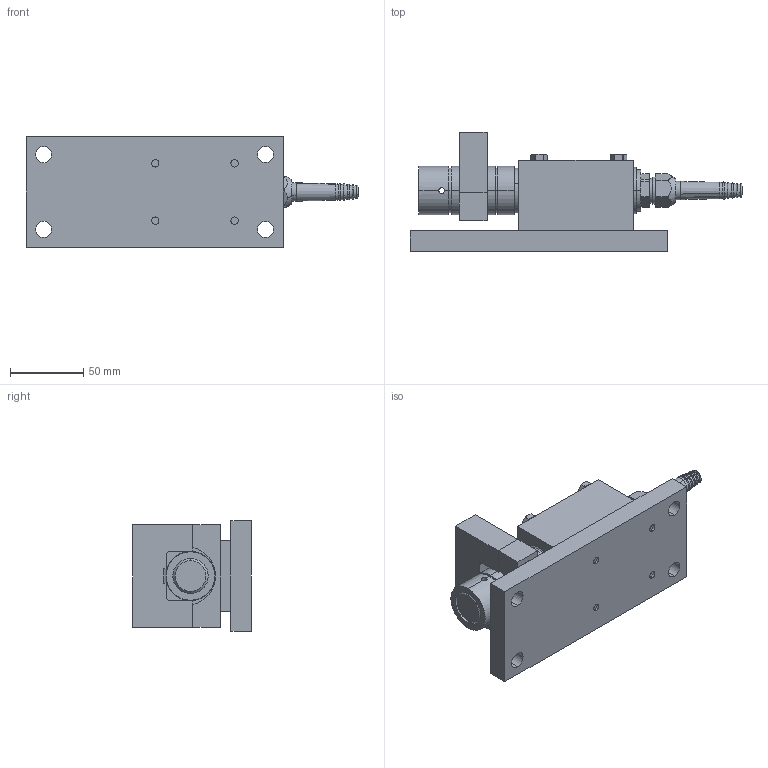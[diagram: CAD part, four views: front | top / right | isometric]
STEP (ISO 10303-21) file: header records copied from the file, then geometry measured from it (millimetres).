
FILE_DESCRIPTION (( 'STEP AP214' ), '1' );
FILE_NAME ('KIS-8 1-2 kN Module.STEP', '2021-06-30T10:24:23', ( '' ), ( '' ), 'SwSTEP 2.0', 'SolidWorks 2021', '' );
FILE_SCHEMA (( 'AUTOMOTIVE_DESIGN' ));
Length unit declared in the file: millimetre
Products named in the file (11): M26x1.5 - Pg9 - 6369829; 500013r0 Platta KIS-8 1-2 kN; KIS-8 1-2 kN Module; 500012r0; 6335014r1; 500011r1; 6365313r1  tippskydd KIS-8 1-5 kN; 400059r3; M6x60; 6365312r2 OK KIS-8 1-5 kN; Pg9 - 1009.52 6_2_14
Assembly tree (13 placements, depth 2):
  KIS-8 1-2 kN Module
    400059r3
    500011r1
    6335014r1
    Pg9 - 1009.52 6_2_14
    500012r0
    500013r0 Platta KIS-8 1-2 kN
    M6x60  x4
    6365312r2 OK KIS-8 1-5 kN
    6365313r1  tippskydd KIS-8 1-5 kN
    M26x1.5 - Pg9 - 6369829
Bounding box: 226 x 81 x 75 mm (x, y, z)
Volume: 473638.3 mm3; surface area: 129202.2 mm2
Topology: 13 solids, 16 shells, 393 faces, 942 edges, 597 vertices
Faces by surface type: cylinder 164, plane 122, cone 75, torus 16, bspline 16
Entity records: 15273 total; most frequent: CARTESIAN_POINT 6637, DIRECTION 1611, ORIENTED_EDGE 1560, EDGE_CURVE 780, AXIS2_PLACEMENT_3D 660, VERTEX_POINT 495, EDGE_LOOP 393, CIRCLE 336
